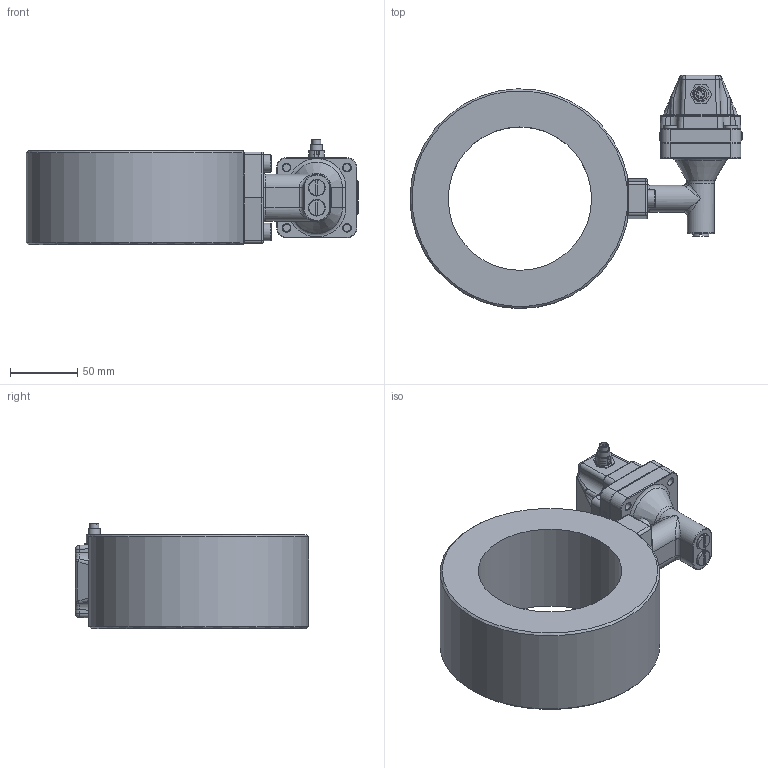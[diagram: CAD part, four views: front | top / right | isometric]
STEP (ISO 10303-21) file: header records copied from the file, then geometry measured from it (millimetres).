
FILE_DESCRIPTION(/* description */ ('Alibre Inc.'),/* implementation_level */ '2;1');
FILE_NAME(/* name */ 'export0',/* time_stamp */ '2012-11-14T15:43:51+01:00',/* author */ (''),/* organization */ (''),/* preprocessor_version */ 'ST-DEVELOPER v14',/* originating_system */ 'Alibre',/* authorisation */ '');
FILE_SCHEMA (('CONFIG_CONTROL_DESIGN'));
Length unit declared in the file: centimetre
Products named in the file (9): ID_1; ID_2; ID_3; ID_4; ID_5; ID_6
Bounding box: 247.75 x 173.97 x 78.5 mm (x, y, z)
Volume: 1016034.4 mm3; surface area: 147352.1 mm2
Topology: 13 solids, 14 shells, 843 faces, 1841 edges, 1062 vertices
Faces by surface type: plane 268, cylinder 261, bspline 132, cone 92, torus 52, sphere 38
Full cylindrical faces by diameter (mm): 0.75 x5, 3.198 x4, 6 x16, 6.2 x1, 6.4 x4, 6.7 x1, 8 x4, 8.5 x2, 8.7 x2, 8.9 x1, 9.6 x4, 10 x4, 11 x4, 11.75 x2, 12 x2, 13 x2, 14 x2, 17.2 x2, 21.1 x2, 32 x1, 47 x1, 107 x1
Entity records: 45192 total; most frequent: CARTESIAN_POINT 29430, ORIENTED_EDGE 2982, DIRECTION 2909, EDGE_CURVE 1491, AXIS2_PLACEMENT_3D 1307, VERTEX_POINT 913, EDGE_LOOP 892, FACE_BOUND 892
